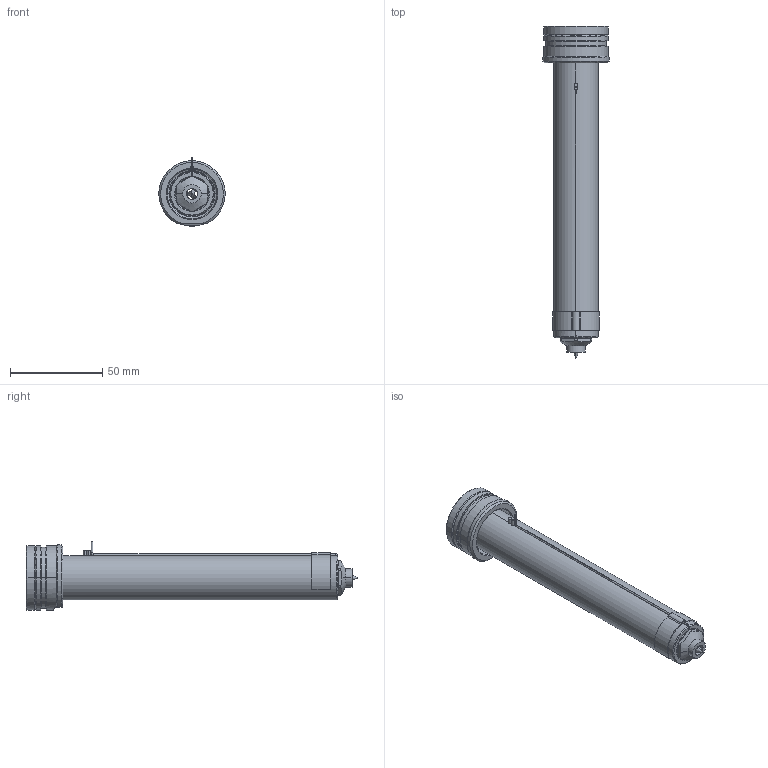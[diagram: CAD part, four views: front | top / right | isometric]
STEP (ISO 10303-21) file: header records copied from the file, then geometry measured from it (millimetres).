
FILE_DESCRIPTION((''),'2;1');
FILE_NAME('EO06_PG-BL_STD_160_SW','2024-02-19T11:02:21',('sundharh'),(''),'CREO PARAMETRIC BY PTC INC, 2023154','CREO PARAMETRIC BY PTC INC, 2023154','');
FILE_SCHEMA(('CONFIG_CONTROL_DESIGN'));
Length unit declared in the file: millimetre
Products named in the file (1): EO06_PG-BL_STD_160_SW
Bounding box: 35.93 x 180 x 37 mm (x, y, z)
Volume: 81379.7 mm3; surface area: 22854.3 mm2
Topology: 2 solids, 2 shells, 204 faces, 552 edges, 339 vertices
Faces by surface type: cylinder 83, plane 54, cone 38, torus 21, bspline 6, sphere 2
Entity records: 7485 total; most frequent: CARTESIAN_POINT 2273, DIRECTION 1145, ORIENTED_EDGE 1088, EDGE_CURVE 544, AXIS2_PLACEMENT_3D 481, VERTEX_POINT 339, CIRCLE 283, EDGE_LOOP 219
